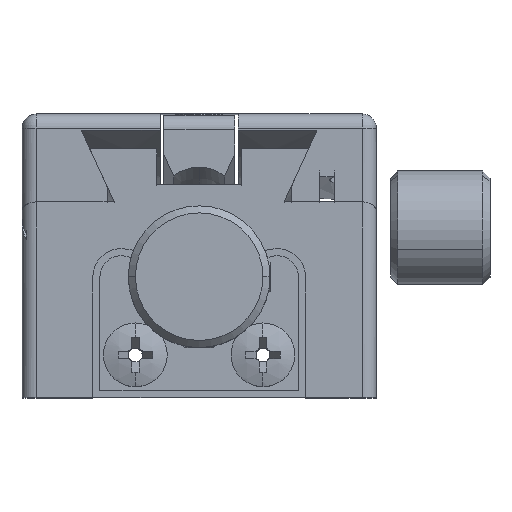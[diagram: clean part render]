
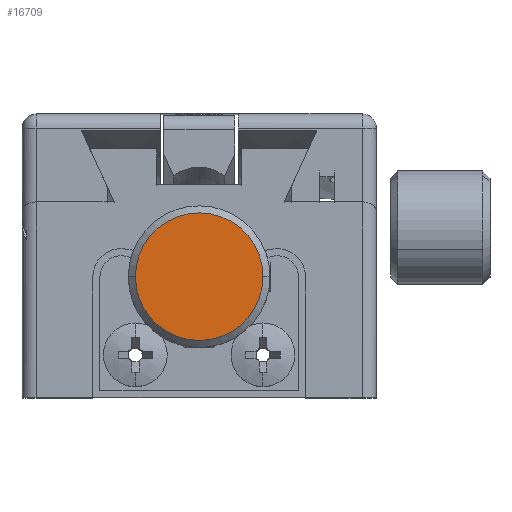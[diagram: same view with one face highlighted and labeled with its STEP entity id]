
A CAD part, top view. The second image highlights one B-rep face of the part: STEP entity #16709.
In plain terms, the highlighted planar face has unit normal (0, 0, 1).
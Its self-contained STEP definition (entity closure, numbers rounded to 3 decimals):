
#504 = DIRECTION ( 'NONE',  ( 0., 0., -1. ) ) ;
#879 = EDGE_LOOP ( 'NONE', ( #14313, #18031 ) ) ;
#1092 = EDGE_CURVE ( 'NONE', #9031, #8668, #21243, .T. ) ;
#3035 = EDGE_CURVE ( 'NONE', #8668, #9031, #13741, .T. ) ;
#5268 = DIRECTION ( 'NONE',  ( 1., 0., 0. ) ) ;
#7827 = CARTESIAN_POINT ( 'NONE',  ( -4.5, -1.5, 23. ) ) ;
#8500 = AXIS2_PLACEMENT_3D ( 'NONE', #9329, #13807, #15904 ) ;
#8668 = VERTEX_POINT ( 'NONE', #7827 ) ;
#8804 = CARTESIAN_POINT ( 'NONE',  ( 0., -6.5, 23. ) ) ;
#9031 = VERTEX_POINT ( 'NONE', #9369 ) ;
#9329 = CARTESIAN_POINT ( 'NONE',  ( 0., -1.5, 23. ) ) ;
#9369 = CARTESIAN_POINT ( 'NONE',  ( 4.5, -1.5, 23. ) ) ;
#11877 = CARTESIAN_POINT ( 'NONE',  ( 0., -1.5, 23. ) ) ;
#12070 = DIRECTION ( 'NONE',  ( 1., 0., 0. ) ) ;
#12961 = PLANE ( 'NONE',  #20575 ) ;
#13741 = CIRCLE ( 'NONE', #21118, 4.5 ) ;
#13807 = DIRECTION ( 'NONE',  ( 0., 0., 1. ) ) ;
#14313 = ORIENTED_EDGE ( 'NONE', *, *, #1092, .T. ) ;
#15189 = DIRECTION ( 'NONE',  ( 0., 0., 1. ) ) ;
#15904 = DIRECTION ( 'NONE',  ( 1., 0., 0. ) ) ;
#16709 = ADVANCED_FACE ( 'NONE', ( #21159 ), #12961, .F. ) ;
#18031 = ORIENTED_EDGE ( 'NONE', *, *, #3035, .T. ) ;
#20575 = AXIS2_PLACEMENT_3D ( 'NONE', #8804, #504, #12070 ) ;
#21118 = AXIS2_PLACEMENT_3D ( 'NONE', #11877, #15189, #5268 ) ;
#21159 = FACE_OUTER_BOUND ( 'NONE', #879, .T. ) ;
#21243 = CIRCLE ( 'NONE', #8500, 4.5 ) ;
